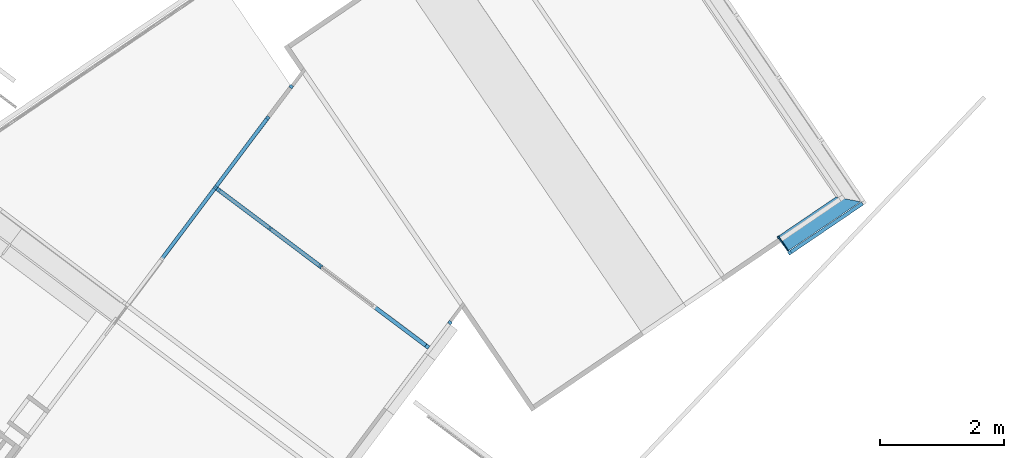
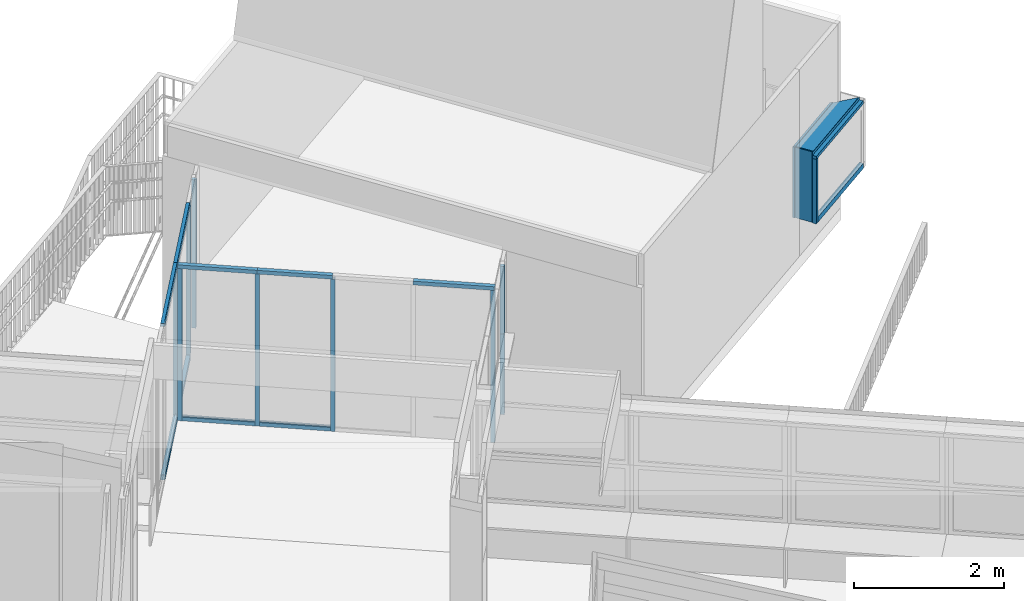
# One storey, part 65 of 243: 23 members, 5 elements without a shape of their own.
"""IFC2X3 building model written with IfcOpenShell, lengths in metres."""

from ifc_helpers import new_model, entity, si_unit, converted_unit, derived_unit, direction, frame, frame_2d, origin, origin_2d_with_axis, place, context, subcontext, project, spatial, polyline, rectangle, i_section, outline, extrude, clip, halfspace, source, transform, mapped, material, type_object, type_shapes, element, aggregate, save


model = new_model("IFC2X3")

# Units and contexts
model_context = context("Model", 3, precision=1e-05, world=origin(), true_north=direction((6.123031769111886e-17, 1.0)))
body_context = subcontext(model_context, "Body", "Model", "MODEL_VIEW")
ifc_project = project(units=[si_unit("LENGTHUNIT", "METRE"), si_unit("AREAUNIT", "SQUARE_METRE"), si_unit("VOLUMEUNIT", "CUBIC_METRE"), converted_unit("PLANEANGLEUNIT", "DEGREE", entity("IfcRatioMeasure", 0.017453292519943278), si_unit("PLANEANGLEUNIT", "RADIAN"), dimensions=[0, 0, 0, 0, 0, 0, 0]), si_unit("MASSUNIT", "GRAM", prefix="KILO"), derived_unit("MASSDENSITYUNIT", [(si_unit("MASSUNIT", "GRAM", prefix="KILO"), 1), (si_unit("LENGTHUNIT", "METRE"), -3)]), derived_unit("IONCONCENTRATIONUNIT", [(si_unit("MASSUNIT", "GRAM", prefix="KILO"), 1), (si_unit("LENGTHUNIT", "METRE"), -3)]), derived_unit("MOMENTOFINERTIAUNIT", [(si_unit("LENGTHUNIT", "METRE"), 4)]), si_unit("TIMEUNIT", "SECOND"), si_unit("FREQUENCYUNIT", "HERTZ"), si_unit("THERMODYNAMICTEMPERATUREUNIT", "DEGREE_CELSIUS"), derived_unit("THERMALTRANSMITTANCEUNIT", [(si_unit("MASSUNIT", "GRAM", prefix="KILO"), 1), (si_unit("THERMODYNAMICTEMPERATUREUNIT", "KELVIN"), -1), (si_unit("TIMEUNIT", "SECOND"), -3)]), derived_unit("THERMALCONDUCTANCEUNIT", [(si_unit("MASSUNIT", "GRAM", prefix="KILO"), 1), (si_unit("THERMODYNAMICTEMPERATUREUNIT", "KELVIN"), -1), (si_unit("TIMEUNIT", "SECOND"), -3), (si_unit("LENGTHUNIT", "METRE"), 1)]), derived_unit("VOLUMETRICFLOWRATEUNIT", [(si_unit("LENGTHUNIT", "METRE"), 3), (si_unit("TIMEUNIT", "SECOND"), -1)]), derived_unit("MASSFLOWRATEUNIT", [(si_unit("MASSUNIT", "GRAM", prefix="KILO"), 1), (si_unit("TIMEUNIT", "SECOND"), -1)]), derived_unit("ROTATIONALFREQUENCYUNIT", [(si_unit("TIMEUNIT", "SECOND"), -1)]), si_unit("ELECTRICCURRENTUNIT", "AMPERE"), si_unit("ELECTRICVOLTAGEUNIT", "VOLT"), si_unit("POWERUNIT", "WATT"), si_unit("FORCEUNIT", "NEWTON", prefix="KILO"), si_unit("ILLUMINANCEUNIT", "LUX"), si_unit("LUMINOUSFLUXUNIT", "LUMEN"), si_unit("LUMINOUSINTENSITYUNIT", "CANDELA"), derived_unit("USERDEFINED", [(si_unit("MASSUNIT", "GRAM", prefix="KILO"), -1), (si_unit("LENGTHUNIT", "METRE"), -2), (si_unit("TIMEUNIT", "SECOND"), 3), (si_unit("LUMINOUSFLUXUNIT", "LUMEN"), 1)]), derived_unit("USERDEFINED", [(si_unit("MASSUNIT", "GRAM", prefix="KILO"), 1), (si_unit("TIMEUNIT", "SECOND"), -3), (si_unit("LENGTHUNIT", "METRE"), 3), (si_unit("ELECTRICCURRENTUNIT", "AMPERE"), -2)]), derived_unit("SOUNDPOWERUNIT", [(si_unit("MASSUNIT", "GRAM", prefix="KILO"), 1), (si_unit("TIMEUNIT", "SECOND"), -3), (si_unit("LENGTHUNIT", "METRE"), 2)]), derived_unit("SOUNDPRESSUREUNIT", [(si_unit("MASSUNIT", "GRAM", prefix="KILO"), 1), (si_unit("LENGTHUNIT", "METRE"), -1), (si_unit("TIMEUNIT", "SECOND"), -2)]), derived_unit("LINEARVELOCITYUNIT", [(si_unit("LENGTHUNIT", "METRE"), 1), (si_unit("TIMEUNIT", "SECOND"), -1)]), si_unit("PRESSUREUNIT", "PASCAL"), derived_unit("USERDEFINED", [(si_unit("MASSUNIT", "GRAM", prefix="KILO"), 1), (si_unit("LENGTHUNIT", "METRE"), -2), (si_unit("TIMEUNIT", "SECOND"), -2)]), derived_unit("LINEARFORCEUNIT", [(si_unit("MASSUNIT", "GRAM", prefix="KILO"), 1), (si_unit("TIMEUNIT", "SECOND"), -2)]), derived_unit("PLANARFORCEUNIT", [(si_unit("MASSUNIT", "GRAM", prefix="KILO"), 1), (si_unit("LENGTHUNIT", "METRE"), -1), (si_unit("TIMEUNIT", "SECOND"), -2)]), derived_unit("SPECIFICHEATCAPACITYUNIT", [(si_unit("THERMODYNAMICTEMPERATUREUNIT", "KELVIN"), -1), (si_unit("LENGTHUNIT", "METRE"), 2), (si_unit("TIMEUNIT", "SECOND"), -2)]), derived_unit("HEATINGVALUEUNIT", [(si_unit("LENGTHUNIT", "METRE"), 2), (si_unit("TIMEUNIT", "SECOND"), -2)]), derived_unit("VAPORPERMEABILITYUNIT", [(si_unit("LENGTHUNIT", "METRE"), -1), (si_unit("TIMEUNIT", "SECOND"), 1)]), derived_unit("DYNAMICVISCOSITYUNIT", [(si_unit("MASSUNIT", "GRAM", prefix="KILO"), 1), (si_unit("TIMEUNIT", "SECOND"), -1), (si_unit("LENGTHUNIT", "METRE"), -1)]), derived_unit("THERMALEXPANSIONCOEFFICIENTUNIT", [(si_unit("THERMODYNAMICTEMPERATUREUNIT", "KELVIN"), -1)]), derived_unit("MODULUSOFELASTICITYUNIT", [(si_unit("MASSUNIT", "GRAM", prefix="KILO"), 1), (si_unit("LENGTHUNIT", "METRE"), -1), (si_unit("TIMEUNIT", "SECOND"), -2)]), derived_unit("ISOTHERMALMOISTURECAPACITYUNIT", [(si_unit("LENGTHUNIT", "METRE"), 3), (si_unit("MASSUNIT", "GRAM", prefix="KILO"), -1)]), derived_unit("MOISTUREDIFFUSIVITYUNIT", [(si_unit("TIMEUNIT", "SECOND"), -1), (si_unit("LENGTHUNIT", "METRE"), 2)])], contexts=[model_context])

# Site, building, storey
site_placement = place(None, frame((0.0, 0.0, 235.0), z_axis=(0.0, 0.0, 1.0), x_axis=(-0.7996477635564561, 0.6004693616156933, 0.0)))
site = spatial("IfcSite", under=ifc_project, at=site_placement, Name="Default", CompositionType="ELEMENT")
building_placement = place(site_placement, origin())
building = spatial("IfcBuilding", under=site, at=building_placement, CompositionType="ELEMENT")
storey_placement = place(building_placement, origin())
storey = spatial("IfcBuildingStorey", under=building, at=storey_placement, Name="P0- Escola", CompositionType="ELEMENT", Elevation=0.0)

# Curtain wall, members
curtain_wall_type_1 = type_object("IfcCurtainWallType", PredefinedType="NOTDEFINED")
curtain_wall_1_placement = place(storey_placement, origin())
curtain_wall_1 = element("IfcCurtainWall", 1, at=curtain_wall_1_placement, inside=storey, type_object=curtain_wall_type_1)
ifc_material_1 = material(Name="_Alumini- T1- Perfil")
member_type_1 = type_object("IfcMemberType", Name="Montante rectangular:MC- Alu- 50x60 cm- Fa pista- Centre", PredefinedType="MULLION", material=ifc_material_1)
shared_shape_1 = source(origin(), body_context, "Body", "SweptSolid", [
    extrude(rectangle(XDim=0.06000000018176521, YDim=0.05, at=frame_2d((3.469446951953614e-18, 0.0), x_axis=(1.0, 0.0))), frame((-0.025, -0.030000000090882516, -1.315000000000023), z_axis=(0.0, 0.0, 1.0), x_axis=(0.0, -1.0, 0.0)), (0.0, 0.0, 1.0), 1.315000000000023),
])
type_shapes(member_type_1, [shared_shape_1])
member_1_placement = place(curtain_wall_1_placement, frame((62.050488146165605, -45.23084133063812, 0.085), z_axis=(0.0, 0.0, -1.0), x_axis=(0.0, -1.0, 0.0)))
member_1 = element("IfcMember", 2, at=member_1_placement, type_object=member_type_1, material=ifc_material_1, Name="Montante rectangular:MC- Alu- 50x60 cm- Fa pista- Centre", ObjectType="Montante rectangular:MC- Alu- 50x60 cm- Fa pista- Centre", context=body_context, shape_type="MappedRepresentation", body=[
    mapped(shared_shape_1, transform((0.0, 0.0, 0.0), scale=1.0)),
])
member_type_2 = type_object("IfcMemberType", Name="Montante rectangular:MC- Alu- 50x60 cm- Fa pista- Centre", PredefinedType="MULLION", material=ifc_material_1)
shared_shape_2 = source(origin(), body_context, "Body", "SweptSolid", [
    extrude(rectangle(XDim=0.06000000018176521, YDim=0.05, at=frame_2d((3.469446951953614e-18, 0.0), x_axis=(1.0, 0.0))), frame((-0.025, -0.030000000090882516, -1.1025), z_axis=(0.0, 0.0, 1.0), x_axis=(0.0, -1.0, 0.0)), (0.0, 0.0, 1.0), 1.1025),
])
type_shapes(member_type_2, [shared_shape_2])
member_2_placement = place(curtain_wall_1_placement, frame((62.050488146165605, -45.23084133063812, 1.4000000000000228), z_axis=(0.0, 0.0, -1.0), x_axis=(0.0, -1.0, 0.0)))
member_2 = element("IfcMember", 3, at=member_2_placement, type_object=member_type_2, material=ifc_material_1, Name="Montante rectangular:MC- Alu- 50x60 cm- Fa pista- Centre", ObjectType="Montante rectangular:MC- Alu- 50x60 cm- Fa pista- Centre", context=body_context, shape_type="MappedRepresentation", body=[
    mapped(shared_shape_2, transform((0.0, 0.0, 0.0), scale=1.0)),
])
aggregate(curtain_wall_1, [member_1, member_2])

curtain_wall_2_placement = place(storey_placement, origin())
curtain_wall_2 = element("IfcCurtainWall", 4, at=curtain_wall_2_placement, inside=storey, type_object=curtain_wall_type_1)
member_type_3 = type_object("IfcMemberType", Name="Montante rectangular:MC- Alu- 50x60 cm- Fa pista- Centre", PredefinedType="MULLION", material=ifc_material_1)
shared_shape_3 = source(origin(), body_context, "Body", "SweptSolid", [
    extrude(rectangle(XDim=0.060000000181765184, YDim=0.05, at=frame_2d((3.469446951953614e-18, 0.0), x_axis=(1.0, 0.0))), frame((-0.025, 0.030000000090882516, -2.417500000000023), z_axis=(0.0, 0.0, 1.0), x_axis=(0.0, -1.0, 0.0)), (0.0, 0.0, 1.0), 2.417500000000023),
])
type_shapes(member_type_3, [shared_shape_3])
member_3_placement = place(curtain_wall_2_placement, frame((66.43814360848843, -46.73413514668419, 0.085), z_axis=(0.0, 0.0, -1.0), x_axis=(0.0, -1.0, 0.0)))
member_3 = element("IfcMember", 5, at=member_3_placement, type_object=member_type_3, material=ifc_material_1, Name="Montante rectangular:MC- Alu- 50x60 cm- Fa pista- Centre", ObjectType="Montante rectangular:MC- Alu- 50x60 cm- Fa pista- Centre", context=body_context, shape_type="MappedRepresentation", body=[
    mapped(shared_shape_3, transform((0.0, 0.0, 0.0), scale=1.0)),
])
member_type_4 = type_object("IfcMemberType", Name="Montante rectangular:MC- Alu- 52x80 cm- Fa pista- inferior", PredefinedType="MULLION", material=ifc_material_1)
shared_shape_4 = source(origin(), body_context, "Body", "SweptSolid", [
    extrude(rectangle(XDim=0.06000000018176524, YDim=0.08500000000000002, at=frame_2d((-3.469446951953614e-18, -6.938893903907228e-18), x_axis=(1.0, 0.0))), frame((-0.0425, 0.030000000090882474, -1.4320000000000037), z_axis=(0.0, 0.0, 1.0), x_axis=(0.0, -1.0, 0.0)), (0.0, 0.0, 1.0), 1.4320000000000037),
])
type_shapes(member_type_4, [shared_shape_4])
member_4_placement = place(curtain_wall_2_placement, frame((66.43814360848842, -43.24518994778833, 0.0), z_axis=(0.0, 1.0, 0.0), x_axis=(0.0, 0.0, -1.0)))
member_4 = element("IfcMember", 6, at=member_4_placement, type_object=member_type_4, material=ifc_material_1, Name="Montante rectangular:MC- Alu- 52x80 cm- Fa pista- inferior", ObjectType="Montante rectangular:MC- Alu- 52x80 cm- Fa pista- inferior", context=body_context, shape_type="MappedRepresentation", body=[
    mapped(shared_shape_4, transform((0.0, 0.0, 0.0), scale=1.0)),
])
member_type_5 = type_object("IfcMemberType", Name="Montante rectangular:MC- Alu- 50x60 cm- Fa pista- Centre", PredefinedType="MULLION", material=ifc_material_1)
shared_shape_5 = source(origin(), body_context, "Body", "SweptSolid", [
    extrude(rectangle(XDim=0.0600000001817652, YDim=0.05, at=frame_2d((5.204170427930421e-18, 0.0), x_axis=(1.0, 0.0))), frame((0.0, 0.030000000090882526, -2.417500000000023), z_axis=(0.0, 0.0, 1.0), x_axis=(0.0, -1.0, 0.0)), (0.0, 0.0, 1.0), 2.417500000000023),
])
type_shapes(member_type_5, [shared_shape_5])
member_5_placement = place(curtain_wall_2_placement, frame((66.43814360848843, -44.67718994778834, 0.085), z_axis=(0.0, 0.0, -1.0), x_axis=(0.0, -1.0, 0.0)))
member_5 = element("IfcMember", 7, at=member_5_placement, type_object=member_type_5, material=ifc_material_1, Name="Montante rectangular:MC- Alu- 50x60 cm- Fa pista- Centre", ObjectType="Montante rectangular:MC- Alu- 50x60 cm- Fa pista- Centre", context=body_context, shape_type="MappedRepresentation", body=[
    mapped(shared_shape_5, transform((0.0, 0.0, 0.0), scale=1.0)),
])
member_type_6 = type_object("IfcMemberType", Name="Montante rectangular:MC- Alu- 140x52,5 cm- Fa pista- Superior", PredefinedType="MULLION", material=ifc_material_1)
shared_shape_6 = source(origin(), body_context, "Body", "SweptSolid", [
    extrude(outline(polyline([(-0.02066666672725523, -0.04916666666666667), (0.03933333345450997, -0.04916666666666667), (0.039333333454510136, 0.00083333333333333), (-0.018666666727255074, 0.00083333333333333), (-0.01866666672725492, 0.04833333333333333), (-0.020666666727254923, 0.048333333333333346), (-0.02066666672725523, -0.04916666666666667)])), frame((-0.048333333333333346, 0.03933333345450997, -1.4320000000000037), z_axis=(0.0, 0.0, 1.0), x_axis=(0.0, -1.0, 0.0)), (0.0, 0.0, 1.0), 1.4320000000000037),
])
type_shapes(member_type_6, [shared_shape_6])
member_6_placement = place(curtain_wall_2_placement, frame((66.43814360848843, -44.67718994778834, 2.6000000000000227), z_axis=(0.0, -1.0, 0.0), x_axis=(0.0, 0.0, 1.0)))
member_6 = element("IfcMember", 8, at=member_6_placement, type_object=member_type_6, material=ifc_material_1, Name="Montante rectangular:MC- Alu- 140x52,5 cm- Fa pista- Superior", ObjectType="Montante rectangular:MC- Alu- 140x52,5 cm- Fa pista- Superior", context=body_context, shape_type="MappedRepresentation", body=[
    mapped(shared_shape_6, transform((0.0, 0.0, 0.0), scale=1.0)),
])
member_type_7 = type_object("IfcMemberType", Name="Montante rectangular:MC- Alu- 52x80 cm- Fa pista- inferior", PredefinedType="MULLION", material=ifc_material_1)
shared_shape_7 = source(origin(), body_context, "Body", "SweptSolid", [
    extrude(rectangle(XDim=0.06000000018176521, YDim=0.08500000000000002, at=frame_2d((-5.204170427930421e-18, -6.938893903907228e-18), x_axis=(1.0, 0.0))), frame((-0.0425, 0.030000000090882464, -1.402000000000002), z_axis=(0.0, 0.0, 1.0), x_axis=(0.0, -1.0, 0.0)), (0.0, 0.0, 1.0), 1.402000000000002),
])
type_shapes(member_type_7, [shared_shape_7])
member_7_placement = place(curtain_wall_2_placement, frame((66.43814360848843, -44.67718994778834, 0.0), z_axis=(0.0, 1.0, 0.0), x_axis=(0.0, 0.0, -1.0)))
member_7 = element("IfcMember", 9, at=member_7_placement, type_object=member_type_7, material=ifc_material_1, Name="Montante rectangular:MC- Alu- 52x80 cm- Fa pista- inferior", ObjectType="Montante rectangular:MC- Alu- 52x80 cm- Fa pista- inferior", context=body_context, shape_type="MappedRepresentation", body=[
    mapped(shared_shape_7, transform((0.0, 0.0, 0.0), scale=1.0)),
])
member_type_8 = type_object("IfcMemberType", Name="Montante rectangular:MC- Alu- 140x52,5 cm- Fa pista- Superior", PredefinedType="MULLION", material=ifc_material_1)
shared_shape_8 = source(origin(), body_context, "Body", "SweptSolid", [
    extrude(outline(polyline([(-0.02066666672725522, -0.04916666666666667), (0.03933333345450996, -0.04916666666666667), (0.03933333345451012, 0.00083333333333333), (-0.018666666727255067, 0.00083333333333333), (-0.018666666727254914, 0.04833333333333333), (-0.020666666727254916, 0.048333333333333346), (-0.02066666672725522, -0.04916666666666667)])), frame((-0.048333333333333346, 0.03933333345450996, -1.402000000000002), z_axis=(0.0, 0.0, 1.0), x_axis=(0.0, -1.0, 0.0)), (0.0, 0.0, 1.0), 1.402000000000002),
])
type_shapes(member_type_8, [shared_shape_8])
member_8_placement = place(curtain_wall_2_placement, frame((66.43814360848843, -46.07918994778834, 2.6000000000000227), z_axis=(0.0, -1.0, 0.0), x_axis=(0.0, 0.0, 1.0)))
member_8 = element("IfcMember", 10, at=member_8_placement, type_object=member_type_8, material=ifc_material_1, Name="Montante rectangular:MC- Alu- 140x52,5 cm- Fa pista- Superior", ObjectType="Montante rectangular:MC- Alu- 140x52,5 cm- Fa pista- Superior", context=body_context, shape_type="MappedRepresentation", body=[
    mapped(shared_shape_8, transform((0.0, 0.0, 0.0), scale=1.0)),
])
member_type_9 = type_object("IfcMemberType", Name="Montante rectangular:MC- Alu- 50x60 cm- Fa pista- Centre", PredefinedType="MULLION", material=ifc_material_1)
shared_shape_9 = source(origin(), body_context, "Body", "SweptSolid", [
    extrude(rectangle(XDim=0.06000000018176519, YDim=0.05, at=origin_2d_with_axis()), frame((0.0, 0.030000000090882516, -2.417500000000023), z_axis=(0.0, 0.0, 1.0), x_axis=(0.0, -1.0, 0.0)), (0.0, 0.0, 1.0), 2.417500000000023),
])
type_shapes(member_type_9, [shared_shape_9])
member_9_placement = place(curtain_wall_2_placement, frame((66.43814360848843, -46.07918994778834, 0.085), z_axis=(0.0, 0.0, -1.0), x_axis=(0.0, -1.0, 0.0)))
member_9 = element("IfcMember", 11, at=member_9_placement, type_object=member_type_9, material=ifc_material_1, Name="Montante rectangular:MC- Alu- 50x60 cm- Fa pista- Centre", ObjectType="Montante rectangular:MC- Alu- 50x60 cm- Fa pista- Centre", context=body_context, shape_type="MappedRepresentation", body=[
    mapped(shared_shape_9, transform((0.0, 0.0, 0.0), scale=1.0)),
])
aggregate(curtain_wall_2, [member_3, member_4, member_6, member_7, member_5, member_8, member_9])

curtain_wall_type_2 = type_object("IfcCurtainWallType", Name="Muro cortina:MC- INT- C1", PredefinedType="NOTDEFINED")
curtain_wall_3_placement = place(storey_placement, origin())
curtain_wall_3 = element("IfcCurtainWall", 12, at=curtain_wall_3_placement, inside=storey, type_object=curtain_wall_type_2, Name="Muro cortina:MC- INT- C1", ObjectType="Muro cortina:MC- INT- C1")
ifc_material_2 = material(Name="_Fusta massisa- T1")
member_type_10 = type_object("IfcMemberType", Name="Montante rectangular:MC- Fusta- 6,5x9- Biblio- Neutre", PredefinedType="MULLION", material=ifc_material_2)
shared_shape_10 = source(origin(), body_context, "Body", "SweptSolid", [
    extrude(rectangle(XDim=0.06499999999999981, YDim=0.059999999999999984, at=frame_2d((4.85722573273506e-17, 3.469446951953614e-18), x_axis=(1.0, 0.0))), frame((-0.02999999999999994, 0.0, -1.1000000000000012), z_axis=(0.0, 0.0, 1.0), x_axis=(0.0, -1.0, 0.0)), (0.0, 0.0, 1.0), 1.1000000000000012),
])
type_shapes(member_type_10, [shared_shape_10])
member_10_placement = place(curtain_wall_3_placement, frame((62.11048814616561, -44.67643550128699, 2.5372612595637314), z_axis=(-1.0, 0.0, 0.0), x_axis=(0.0, 0.0, 1.0)))
member_10 = element("IfcMember", 13, at=member_10_placement, type_object=member_type_10, material=ifc_material_2, Name="Montante rectangular:MC- Fusta- 6,5x9- Biblio- Neutre", ObjectType="Montante rectangular:MC- Fusta- 6,5x9- Biblio- Neutre", context=body_context, shape_type="MappedRepresentation", body=[
    mapped(shared_shape_10, transform((0.0, 0.0, 0.0), scale=1.0)),
])
member_type_11 = type_object("IfcMemberType", Name="Montante rectangular:MC- Fusta- 6,5x9- Biblio- Neutre", PredefinedType="MULLION", material=ifc_material_2)
shared_shape_11 = source(origin(), body_context, "Body", "SweptSolid", [
    extrude(rectangle(XDim=0.06499999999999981, YDim=0.059999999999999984, at=frame_2d((4.85722573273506e-17, 3.469446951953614e-18), x_axis=(1.0, 0.0))), frame((-0.02999999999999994, 0.0, -2.4772612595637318), z_axis=(0.0, 0.0, 1.0), x_axis=(0.0, -1.0, 0.0)), (0.0, 0.0, 1.0), 2.4772612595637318),
])
type_shapes(member_type_11, [shared_shape_11])
member_11_placement = place(curtain_wall_3_placement, frame((62.11048814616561, -44.67643550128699, 0.0), z_axis=(0.0, 0.0, -1.0), x_axis=(-1.0, 0.0, 0.0)))
member_11 = element("IfcMember", 14, at=member_11_placement, type_object=member_type_11, material=ifc_material_2, Name="Montante rectangular:MC- Fusta- 6,5x9- Biblio- Neutre", ObjectType="Montante rectangular:MC- Fusta- 6,5x9- Biblio- Neutre", context=body_context, shape_type="MappedRepresentation", body=[
    mapped(shared_shape_11, transform((0.0, 0.0, 0.0), scale=1.0)),
])
member_type_12 = type_object("IfcMemberType", Name="Montante rectangular:MC- Fusta- 6,5x9- Biblio- Dreta", PredefinedType="MULLION", material=ifc_material_2)
shared_shape_12 = source(origin(), body_context, "Body", "SweptSolid", [
    extrude(outline(polyline([(-0.03249999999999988, -0.018749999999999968), (-0.010000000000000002, -0.018749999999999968), (-0.010000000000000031, -0.0037500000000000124), (0.009999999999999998, -0.0037500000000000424), (0.009999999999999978, -0.018750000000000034), (0.03249999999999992, -0.01875000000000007), (0.03250000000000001, 0.04125000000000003), (-0.03249999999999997, 0.041250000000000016), (-0.03249999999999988, -0.018749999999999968)])), frame((-0.04124999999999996, 0.0, -2.4772612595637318), z_axis=(0.0, 0.0, 1.0), x_axis=(0.0, -1.0, 0.0)), (0.0, 0.0, 1.0), 2.4772612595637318),
])
type_shapes(member_type_12, [shared_shape_12])
member_12_placement = place(curtain_wall_3_placement, frame((66.37814360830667, -44.676435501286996, 2.4772612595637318)))
member_12 = element("IfcMember", 15, at=member_12_placement, type_object=member_type_12, material=ifc_material_2, Name="Montante rectangular:MC- Fusta- 6,5x9- Biblio- Dreta", ObjectType="Montante rectangular:MC- Fusta- 6,5x9- Biblio- Dreta", context=body_context, shape_type="MappedRepresentation", body=[
    mapped(shared_shape_12, transform((0.0, 0.0, 0.0), scale=1.0)),
])
member_type_13 = type_object("IfcMemberType", Name="Montante rectangular:MC- Fusta- 6,5x9- Biblio- Esquerra", PredefinedType="MULLION", material=ifc_material_2)
shared_shape_13 = source(origin(), body_context, "Body", "SweptSolid", [
    extrude(outline(polyline([(-0.03249999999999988, -0.018749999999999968), (-0.010000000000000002, -0.018749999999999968), (-0.010000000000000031, -0.0037500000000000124), (0.009999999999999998, -0.0037500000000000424), (0.009999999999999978, -0.018750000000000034), (0.03249999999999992, -0.01875000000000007), (0.03250000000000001, 0.04125000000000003), (-0.03249999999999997, 0.041250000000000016), (-0.03249999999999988, -0.018749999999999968)])), frame((-0.04124999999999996, 0.0, -1.069999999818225), z_axis=(0.0, 0.0, 1.0), x_axis=(0.0, -1.0, 0.0)), (0.0, 0.0, 1.0), 1.069999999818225),
])
type_shapes(member_type_13, [shared_shape_13])
member_13_placement = place(curtain_wall_3_placement, frame((65.30814360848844, -44.676435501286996, 2.5372612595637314), z_axis=(-1.0, 0.0, 0.0), x_axis=(0.0, 0.0, 1.0)))
member_13 = element("IfcMember", 16, at=member_13_placement, type_object=member_type_13, material=ifc_material_2, Name="Montante rectangular:MC- Fusta- 6,5x9- Biblio- Esquerra", ObjectType="Montante rectangular:MC- Fusta- 6,5x9- Biblio- Esquerra", context=body_context, shape_type="MappedRepresentation", body=[
    mapped(shared_shape_13, transform((0.0, 0.0, 0.0), scale=1.0)),
])
member_type_14 = type_object("IfcMemberType", Name="Montante rectangular:MC- Fusta- 6,5x9- Biblio- Centre", PredefinedType="MULLION", material=ifc_material_2)
shared_shape_14 = source(origin(), body_context, "Body", "SweptSolid", [
    extrude(i_section(OverallWidth=0.06, OverallDepth=0.06499999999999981, WebThickness=0.030000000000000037, FlangeThickness=0.022499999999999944, at=frame_2d((-4.85722573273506e-17, 1.214306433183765e-17), x_axis=(0.0, 1.0))), frame((0.0, 0.0, -2.4772612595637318), z_axis=(0.0, 0.0, 1.0), x_axis=(0.0, -1.0, 0.0)), (0.0, 0.0, 1.0), 2.4772612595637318),
])
type_shapes(member_type_14, [shared_shape_14])
member_14_placement = place(curtain_wall_3_placement, frame((65.30814360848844, -44.676435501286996, 0.0), z_axis=(0.0, 0.0, -1.0), x_axis=(-1.0, 0.0, 0.0)))
member_14 = element("IfcMember", 17, at=member_14_placement, type_object=member_type_14, material=ifc_material_2, Name="Montante rectangular:MC- Fusta- 6,5x9- Biblio- Centre", ObjectType="Montante rectangular:MC- Fusta- 6,5x9- Biblio- Centre", context=body_context, shape_type="MappedRepresentation", body=[
    mapped(shared_shape_14, transform((0.0, 0.0, 0.0), scale=1.0)),
])
member_15_placement = place(curtain_wall_3_placement, frame((64.29514360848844, -44.676435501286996, 0.0), z_axis=(0.0, 0.0, -1.0), x_axis=(-1.0, 0.0, 0.0)))
member_15 = element("IfcMember", 18, at=member_15_placement, type_object=member_type_14, material=ifc_material_2, Name="Montante rectangular:MC- Fusta- 6,5x9- Biblio- Centre", ObjectType="Montante rectangular:MC- Fusta- 6,5x9- Biblio- Centre", context=body_context, shape_type="MappedRepresentation", body=[
    mapped(shared_shape_14, transform((0.0, 0.0, 0.0), scale=1.0)),
])
member_type_15 = type_object("IfcMemberType", Name="Montante rectangular:MC- Fusta- 6,5x9- Biblio- Esquerra", PredefinedType="MULLION", material=ifc_material_2)
shared_shape_15 = source(origin(), body_context, "Body", "SweptSolid", [
    extrude(outline(polyline([(-0.03249999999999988, -0.018749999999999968), (-0.010000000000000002, -0.018749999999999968), (-0.010000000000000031, -0.0037500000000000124), (0.009999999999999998, -0.0037500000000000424), (0.009999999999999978, -0.018750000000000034), (0.03249999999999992, -0.01875000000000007), (0.03250000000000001, 0.04125000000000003), (-0.03249999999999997, 0.041250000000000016), (-0.03249999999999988, -0.018749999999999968)])), frame((-0.04124999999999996, 0.0, -1.012999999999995), z_axis=(0.0, 0.0, 1.0), x_axis=(0.0, -1.0, 0.0)), (0.0, 0.0, 1.0), 1.012999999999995),
])
type_shapes(member_type_15, [shared_shape_15])
member_16_placement = place(curtain_wall_3_placement, frame((64.29514360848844, -44.676435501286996, 2.5372612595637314), z_axis=(-1.0, 0.0, 0.0), x_axis=(0.0, 0.0, 1.0)))
member_16 = element("IfcMember", 19, at=member_16_placement, type_object=member_type_15, material=ifc_material_2, Name="Montante rectangular:MC- Fusta- 6,5x9- Biblio- Esquerra", ObjectType="Montante rectangular:MC- Fusta- 6,5x9- Biblio- Esquerra", context=body_context, shape_type="MappedRepresentation", body=[
    mapped(shared_shape_15, transform((0.0, 0.0, 0.0), scale=1.0)),
])
member_type_16 = type_object("IfcMemberType", Name="Montante rectangular:MC- Fusta- 6,5x9- Biblio- Inferior", PredefinedType="MULLION", material=ifc_material_2)
shared_shape_16 = source(origin(), body_context, "Body", "SweptSolid", [
    extrude(outline(polyline([(-0.03249999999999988, -0.018749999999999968), (-0.010000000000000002, -0.018749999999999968), (-0.010000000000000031, -0.0037500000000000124), (0.009999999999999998, -0.0037500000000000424), (0.009999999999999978, -0.018750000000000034), (0.03249999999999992, -0.01875000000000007), (0.03250000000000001, 0.04125000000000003), (-0.03249999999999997, 0.041250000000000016), (-0.03249999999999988, -0.018749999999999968)])), frame((-0.04124999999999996, 0.0, -0.9799999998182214), z_axis=(0.0, 0.0, 1.0), x_axis=(0.0, -1.0, 0.0)), (0.0, 0.0, 1.0), 0.9799999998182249),
])
type_shapes(member_type_16, [shared_shape_16])
member_17_placement = place(curtain_wall_3_placement, frame((66.31814360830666, -44.676435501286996, 0.0), z_axis=(1.0, 0.0, 0.0), x_axis=(0.0, 0.0, -1.0)))
member_17 = element("IfcMember", 20, at=member_17_placement, type_object=member_type_16, material=ifc_material_2, Name="Montante rectangular:MC- Fusta- 6,5x9- Biblio- Inferior", ObjectType="Montante rectangular:MC- Fusta- 6,5x9- Biblio- Inferior", context=body_context, shape_type="MappedRepresentation", body=[
    mapped(shared_shape_16, transform((0.0, 0.0, 0.0), scale=1.0)),
])
member_type_17 = type_object("IfcMemberType", Name="Montante rectangular:MC- Fusta- 6,5x9- Biblio- Inferior", PredefinedType="MULLION", material=ifc_material_2)
shared_shape_17 = source(origin(), body_context, "Body", "SweptSolid", [
    extrude(outline(polyline([(-0.03249999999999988, -0.018749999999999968), (-0.010000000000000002, -0.018749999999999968), (-0.010000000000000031, -0.0037500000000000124), (0.009999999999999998, -0.0037500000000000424), (0.009999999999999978, -0.018750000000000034), (0.03249999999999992, -0.01875000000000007), (0.03250000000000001, 0.04125000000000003), (-0.03249999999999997, 0.041250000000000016), (-0.03249999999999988, -0.018749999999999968)])), frame((-0.04124999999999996, 0.0, -0.9529999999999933), z_axis=(0.0, 0.0, 1.0), x_axis=(0.0, -1.0, 0.0)), (0.0, 0.0, 1.0), 0.952999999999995),
])
type_shapes(member_type_17, [shared_shape_17])
member_18_placement = place(curtain_wall_3_placement, frame((65.27814360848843, -44.676435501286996, 0.0), z_axis=(1.0, 0.0, 0.0), x_axis=(0.0, 0.0, -1.0)))
member_18 = element("IfcMember", 21, at=member_18_placement, type_object=member_type_17, material=ifc_material_2, Name="Montante rectangular:MC- Fusta- 6,5x9- Biblio- Inferior", ObjectType="Montante rectangular:MC- Fusta- 6,5x9- Biblio- Inferior", context=body_context, shape_type="MappedRepresentation", body=[
    mapped(shared_shape_17, transform((0.0, 0.0, 0.0), scale=1.0)),
])
aggregate(curtain_wall_3, [member_10, member_11, member_12, member_13, member_14, member_16, member_15, member_17, member_18])

curtain_wall_type_3 = type_object("IfcCurtainWallType", Name="Muro cortina:MC- EXT- MC7", PredefinedType="NOTDEFINED")
curtain_wall_4_placement = place(storey_placement, origin())
curtain_wall_4 = element("IfcCurtainWall", 22, at=curtain_wall_4_placement, inside=storey, type_object=curtain_wall_type_3, Name="Muro cortina:MC- EXT- MC7", ObjectType="Muro cortina:MC- EXT- MC7")
member_type_18 = type_object("IfcMemberType", Name="Montante rectangular:MC- Alu- 140x52,5 cm- Fa pista- Superior", PredefinedType="MULLION", material=ifc_material_1)
shared_shape_18 = source(origin(), body_context, "Body", "SweptSolid", [
    extrude(outline(polyline([(-0.03933333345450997, -0.04916666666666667), (0.02066666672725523, -0.04916666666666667), (0.020666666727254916, 0.048333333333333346), (0.018666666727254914, 0.04833333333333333), (0.018666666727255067, 0.00083333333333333), (-0.03933333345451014, 0.00083333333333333), (-0.03933333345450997, -0.04916666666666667)])), frame((-0.048333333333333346, -0.03933333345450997, -1.4399999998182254), z_axis=(0.0, 0.0, 1.0), x_axis=(0.0, -1.0, 0.0)), (0.0, 0.0, 1.0), 1.4399999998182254),
])
type_shapes(member_type_18, [shared_shape_18])
member_19_placement = place(curtain_wall_4_placement, frame((57.892825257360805, -50.71930679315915, 1.7499999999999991), z_axis=(-0.32415556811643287, -0.9460037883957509, 0.0), x_axis=(0.0, 0.0, 1.0)))
member_19 = element("IfcMember", 23, at=member_19_placement, type_object=member_type_18, material=ifc_material_1, Name="Montante rectangular:MC- Alu- 140x52,5 cm- Fa pista- Superior", ObjectType="Montante rectangular:MC- Alu- 140x52,5 cm- Fa pista- Superior", context=body_context, shape_type="MappedRepresentation", body=[
    mapped(shared_shape_18, transform((0.0, 0.0, 0.0), scale=1.0)),
])
member_type_19 = type_object("IfcMemberType", Name="Montante rectangular:MC- Alu- 52x80 cm- Fa pista- inferior", PredefinedType="MULLION", material=ifc_material_1)
shared_shape_19 = source(origin(), body_context, "Body", "SweptSolid", [
    extrude(rectangle(XDim=0.06000000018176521, YDim=0.085, at=origin_2d_with_axis()), frame((-0.0425, -0.030000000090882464, -1.389999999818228), z_axis=(0.0, 0.0, 1.0), x_axis=(0.0, -1.0, 0.0)), (0.0, 0.0, 1.0), 1.3899999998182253),
])
type_shapes(member_type_19, [shared_shape_19])
member_20_placement = place(curtain_wall_4_placement, frame((58.34340149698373, -49.40436152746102, 0.6000000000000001), z_axis=(0.32415556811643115, 0.9460037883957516, 0.0), x_axis=(0.0, 0.0, -1.0)))
member_20 = element("IfcMember", 24, at=member_20_placement, type_object=member_type_19, material=ifc_material_1, Name="Montante rectangular:MC- Alu- 52x80 cm- Fa pista- inferior", ObjectType="Montante rectangular:MC- Alu- 52x80 cm- Fa pista- inferior", context=body_context, shape_type="MappedRepresentation", body=[
    mapped(shared_shape_19, transform((0.0, 0.0, 0.0), scale=1.0)),
])
member_type_20 = type_object("IfcMemberType", Name="Montante rectangular:MC- Alu- 50x60 cm- Fa pista- Centre", PredefinedType="MULLION", material=ifc_material_1)
shared_shape_20 = source(origin(), body_context, "Body", "SweptSolid", [
    extrude(rectangle(XDim=0.0600000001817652, YDim=0.05, at=origin_2d_with_axis()), frame((-0.025, -0.030000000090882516, -1.0525), z_axis=(0.0, 0.0, 1.0), x_axis=(0.0, -1.0, 0.0)), (0.0, 0.0, 1.0), 1.0525),
])
type_shapes(member_type_20, [shared_shape_20])
member_21_placement = place(curtain_wall_4_placement, frame((58.359609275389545, -49.357061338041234, 1.652499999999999), z_axis=(0.0, 0.0, 1.0), x_axis=(0.32415556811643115, 0.9460037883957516, 0.0)))
member_21 = element("IfcMember", 25, at=member_21_placement, type_object=member_type_20, material=ifc_material_1, Name="Montante rectangular:MC- Alu- 50x60 cm- Fa pista- Centre", ObjectType="Montante rectangular:MC- Alu- 50x60 cm- Fa pista- Centre", context=body_context, shape_type="MappedRepresentation", body=[
    mapped(shared_shape_20, transform((0.0, 0.0, 0.0), scale=1.0)),
])
aggregate(curtain_wall_4, [member_19, member_20, member_21])

curtain_wall_type_4 = type_object("IfcCurtainWallType", PredefinedType="NOTDEFINED")
curtain_wall_5_placement = place(storey_placement, origin())
curtain_wall_5 = element("IfcCurtainWall", 26, at=curtain_wall_5_placement, inside=storey, type_object=curtain_wall_type_4)
member_type_21 = type_object("IfcMemberType", Name="Montante rectangular:MC- Fusta- 28x3 cm- Biblio- Dreta", PredefinedType="MULLION", material=ifc_material_2)
shared_shape_21 = source(origin(), body_context, "Body", "SweptSolid", [
    clip(extrude(outline(polyline([(-0.10566666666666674, -0.016666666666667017), (0.18133333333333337, -0.016666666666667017), (0.18133333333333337, 0.0033333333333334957), (-0.07566666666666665, 0.003333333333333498), (-0.07566666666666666, 0.013333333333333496), (-0.10566666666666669, 0.013333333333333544), (-0.10566666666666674, -0.016666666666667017)])), frame((-0.013333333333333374, -0.0006666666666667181, -1.4020000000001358), z_axis=(0.0, 0.0, 1.0), x_axis=(0.0, -1.0, 0.0)), (0.0, 0.0, 1.0), 1.402000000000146), halfspace(frame((-0.3048, 0.0, -1.2200000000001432), z_axis=(0.0, 0.7071067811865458, -0.7071067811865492), x_axis=(0.0, 0.7071067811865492, 0.7071067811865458)), False)),
])
type_shapes(member_type_21, [shared_shape_21])
member_22_placement = place(curtain_wall_5_placement, frame((58.586385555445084, -49.46648034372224, 1.7499999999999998), z_axis=(0.32415556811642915, 0.9460037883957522, 0.0), x_axis=(0.0, 0.0, 1.0)))
member_22 = element("IfcMember", 27, at=member_22_placement, type_object=member_type_21, material=ifc_material_2, Name="Montante rectangular:MC- Fusta- 28x3 cm- Biblio- Dreta", ObjectType="Montante rectangular:MC- Fusta- 28x3 cm- Biblio- Dreta", context=body_context, shape_type="MappedRepresentation", body=[
    mapped(shared_shape_21, transform((0.0, 0.0, 0.0), scale=1.0)),
])
member_type_22 = type_object("IfcMemberType", Name="Montante rectangular:MC- Fusta- 28x3 cm- Biblio- Dreta", PredefinedType="MULLION", material=ifc_material_2)
shared_shape_22 = source(origin(), body_context, "Body", "SweptSolid", [
    extrude(outline(polyline([(-0.10566666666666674, -0.016666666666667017), (0.18133333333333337, -0.016666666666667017), (0.18133333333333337, 0.0033333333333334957), (-0.07566666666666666, 0.003333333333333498), (-0.07566666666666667, 0.013333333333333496), (-0.10566666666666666, 0.013333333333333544), (-0.10566666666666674, -0.016666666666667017)])), frame((-0.013333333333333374, -0.0006666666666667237, -1.15), z_axis=(0.0, 0.0, 1.0), x_axis=(0.0, -1.0, 0.0)), (0.0, 0.0, 1.0), 1.15),
])
type_shapes(member_type_22, [shared_shape_22])
member_23_placement = place(curtain_wall_5_placement, frame((58.596110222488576, -49.43810023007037, 0.5999999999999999), z_axis=(0.0, 0.0, -1.0), x_axis=(0.32415556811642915, 0.9460037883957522, 0.0)))
member_23 = element("IfcMember", 28, at=member_23_placement, type_object=member_type_22, material=ifc_material_2, Name="Montante rectangular:MC- Fusta- 28x3 cm- Biblio- Dreta", ObjectType="Montante rectangular:MC- Fusta- 28x3 cm- Biblio- Dreta", context=body_context, shape_type="MappedRepresentation", body=[
    mapped(shared_shape_22, transform((0.0, 0.0, 0.0), scale=1.0)),
])
aggregate(curtain_wall_5, [member_22, member_23])

save(model, "model.ifc")
